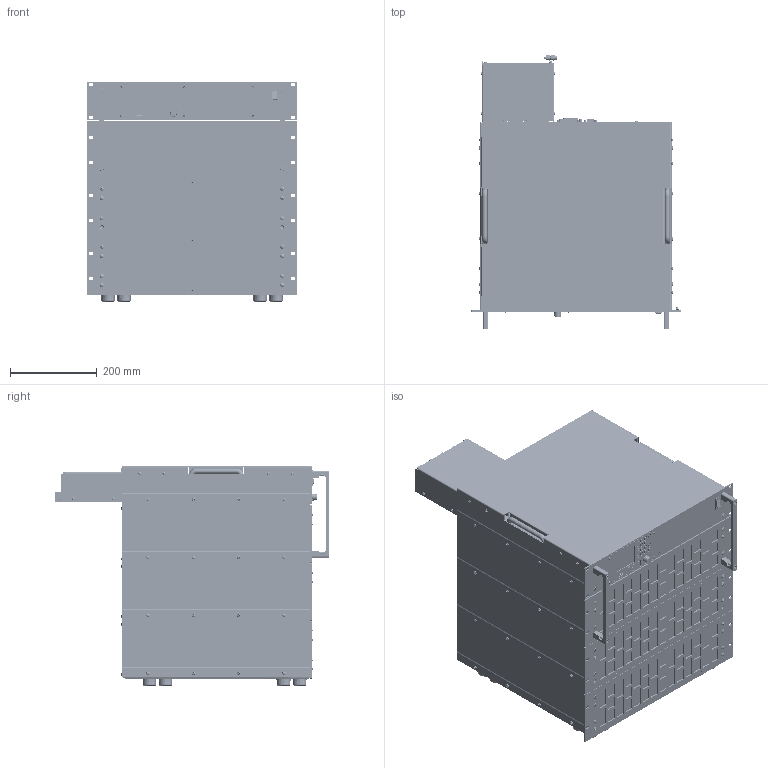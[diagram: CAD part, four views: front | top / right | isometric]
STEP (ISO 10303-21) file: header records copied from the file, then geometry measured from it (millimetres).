
FILE_DESCRIPTION(('STEP AP214'),'1');
FILE_NAME('PLI_M27_19Z_11HE_FKS25_10_SM10_BRB_3D_01.step','2019-02-28T14:08:59',(' '),(' '),'Spatial InterOp 3D',' ',' ');
FILE_SCHEMA(('AUTOMOTIVE_DESIGN { 1 0 10303 214 1 1 1 1 }'));
Length unit declared in the file: millimetre
Products named in the file (1): 1
Bounding box: 482.6 x 631.75 x 506.08 mm (x, y, z)
Volume: 29569000.7 mm3; surface area: 5682046.7 mm2
Topology: 306 solids, 1662 shells, 19907 faces, 54942 edges, 37177 vertices
Faces by surface type: plane 10322, cone 5740, cylinder 3267, sphere 302, torus 248, bspline 26, extrusion 2
Entity records: 814240 total; most frequent: CARTESIAN_POINT 118607, DIRECTION 116471, ORIENTED_EDGE 99644, EDGE_CURVE 54002, AXIS2_PLACEMENT_3D 40568, VERTEX_POINT 36032, VECTOR 35335, LINE 35333
